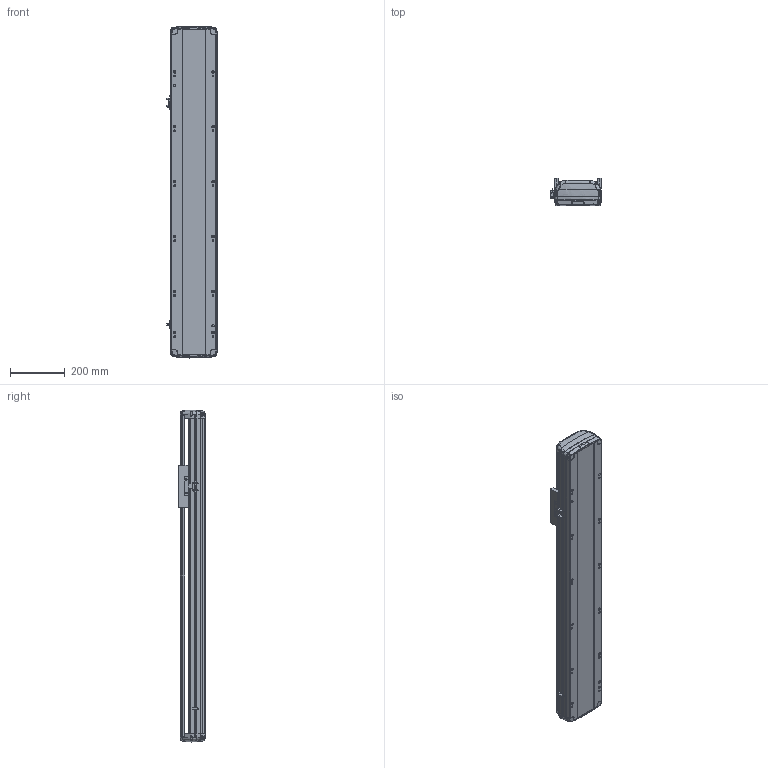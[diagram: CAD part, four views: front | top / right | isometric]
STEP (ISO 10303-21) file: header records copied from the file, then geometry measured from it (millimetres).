
FILE_DESCRIPTION (( 'STEP AP214' ), '1' );
FILE_NAME ('RTH17-XX-800-B-M40-C4.STEP', '2025-10-24T08:37:16', ( '' ), ( '' ), 'SwSTEP 2.0', 'SolidWorks 2018', '' );
FILE_SCHEMA (( 'AUTOMOTIVE_DESIGN' ));
Length unit declared in the file: millimetre
Products named in the file (7): N_RTH17-M-007上盖^RTH17-XX-XX-B-M40-C4（方程式）; N_RTH17-M-011底座^RTH17-XX-XX-B-M40-C4（方程式）; N_RTH-L-012 感应片(外置)^RTH17-XX-XX-B-M40-C4（方程式）; N_OMRON EE-SX672 換覜ん^RTH17-XX-XX-B-M40-C4ㄗ源最宒ㄘ; N_RTH17-GY-001P^RTH17-XX-XX-B-M40-C4（方程式）; RTH17-XX-800-B-M40-C4; N_RTH17-E-004丝杆螺母连接座^RTH17-XX-XX-B-M40-C4（方程式）
Assembly tree (9 placements, depth 2):
  RTH17-XX-800-B-M40-C4
    N_RTH17-M-011底座^RTH17-XX-XX-B-M40-C4（方程式）
    N_RTH17-M-007上盖^RTH17-XX-XX-B-M40-C4（方程式）
    N_OMRON EE-SX672 換覜ん^RTH17-XX-XX-B-M40-C4ㄗ源最宒ㄘ  x3
    N_RTH-L-012 感应片(外置)^RTH17-XX-XX-B-M40-C4（方程式）
    N_RTH17-E-004丝杆螺母连接座^RTH17-XX-XX-B-M40-C4（方程式）
    N_RTH17-GY-001P^RTH17-XX-XX-B-M40-C4（方程式）  x2
Bounding box: 183.5 x 97 x 1209.88 mm (x, y, z)
Volume: 8875419.9 mm3; surface area: 1230473.2 mm2
Topology: 7 solids, 11 shells, 1736 faces, 4880 edges, 3170 vertices
Faces by surface type: plane 811, cylinder 459, bspline 420, cone 28, torus 18
Entity records: 41046 total; most frequent: CARTESIAN_POINT 17043, ORIENTED_EDGE 5264, DIRECTION 4156, EDGE_CURVE 2636, VERTEX_POINT 1724, VECTOR 1436, LINE 1436, AXIS2_PLACEMENT_3D 1360
